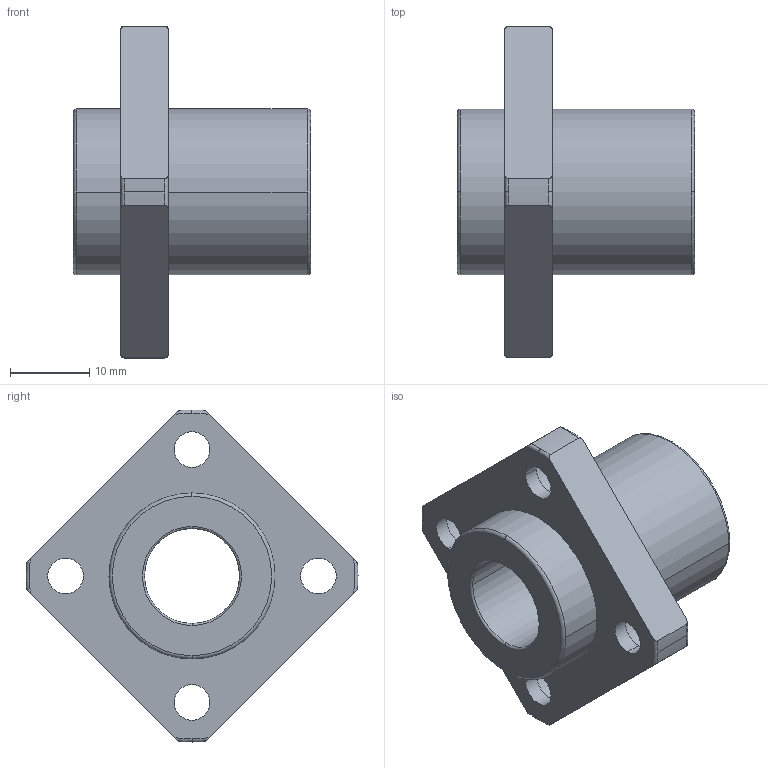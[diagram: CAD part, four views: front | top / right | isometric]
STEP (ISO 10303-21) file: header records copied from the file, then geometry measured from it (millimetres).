
FILE_DESCRIPTION(('FreeCAD Model'),'2;1');
FILE_NAME('Open CASCADE Shape Model','2021-05-03T14:02:52',('Author'),( ''),'Open CASCADE STEP processor 7.5','FreeCAD','Unknown');
FILE_SCHEMA(('AUTOMOTIVE_DESIGN { 1 0 10303 214 1 1 1 1 }'));
Length unit declared in the file: millimetre
Products named in the file (1): linear_lmkp12uu
Bounding box: 30 x 42 x 42 mm (x, y, z)
Volume: 10145.7 mm3; surface area: 5577.1 mm2
Topology: 1 solids, 1 shells, 60 faces, 160 edges, 108 vertices
Faces by surface type: cylinder 28, torus 20, plane 12
Entity records: 6032 total; most frequent: CARTESIAN_POINT 2829, DIRECTION 620, ORIENTED_EDGE 320, PCURVE 320, DEFINITIONAL_REPRESENTATION 320, LINE 268, VECTOR 268, AXIS2_PLACEMENT_3D 165
